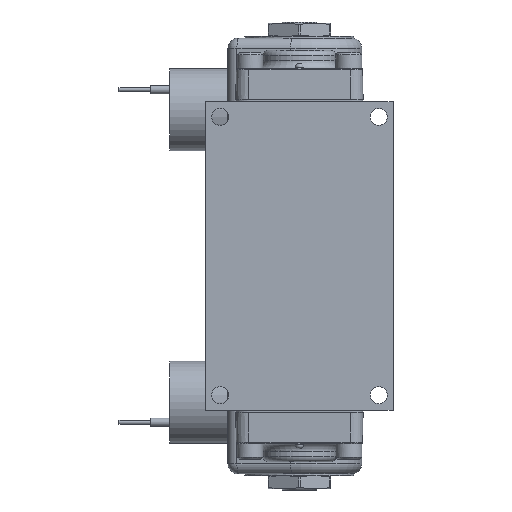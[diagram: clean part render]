
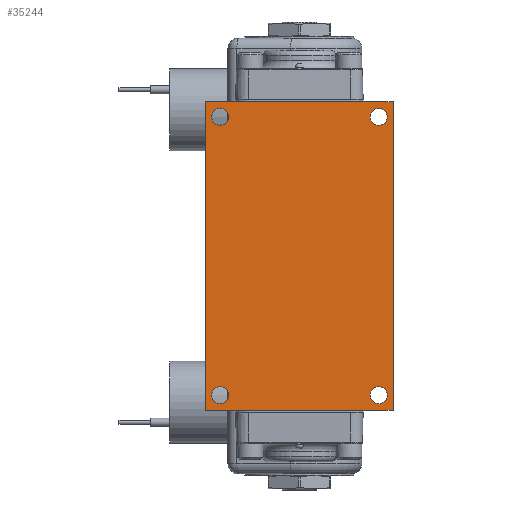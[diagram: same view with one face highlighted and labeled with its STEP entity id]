
A CAD part, front view. The second image highlights one B-rep face of the part: STEP entity #35244.
In plain terms, the highlighted planar face has unit normal (0, -1, 0).
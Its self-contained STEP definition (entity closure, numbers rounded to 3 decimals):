
#1225=FACE_BOUND('',#10348,.T.);
#1226=FACE_BOUND('',#10349,.T.);
#1227=FACE_BOUND('',#10350,.T.);
#1228=FACE_BOUND('',#10351,.T.);
#2926=LINE('',#61748,#5351);
#2927=LINE('',#61750,#5352);
#2928=LINE('',#61752,#5353);
#2929=LINE('',#61753,#5354);
#5351=VECTOR('',#45571,1.);
#5352=VECTOR('',#45572,1.);
#5353=VECTOR('',#45573,1.);
#5354=VECTOR('',#45574,1.);
#8202=FACE_OUTER_BOUND('',#10347,.T.);
#10347=EDGE_LOOP('',(#26960,#26961,#26962,#26963));
#10348=EDGE_LOOP('',(#26964));
#10349=EDGE_LOOP('',(#26965));
#10350=EDGE_LOOP('',(#26966));
#10351=EDGE_LOOP('',(#26967));
#12555=CIRCLE('',#38437,0.258);
#12556=CIRCLE('',#38438,0.258);
#12557=CIRCLE('',#38439,0.258);
#12558=CIRCLE('',#38440,0.258);
#14999=VERTEX_POINT('',#61746);
#15000=VERTEX_POINT('',#61747);
#15001=VERTEX_POINT('',#61749);
#15002=VERTEX_POINT('',#61751);
#15003=VERTEX_POINT('',#61754);
#15004=VERTEX_POINT('',#61756);
#15005=VERTEX_POINT('',#61758);
#15006=VERTEX_POINT('',#61760);
#19274=EDGE_CURVE('',#14999,#15000,#2926,.T.);
#19275=EDGE_CURVE('',#15001,#14999,#2927,.T.);
#19276=EDGE_CURVE('',#15002,#15001,#2928,.T.);
#19277=EDGE_CURVE('',#15000,#15002,#2929,.T.);
#19278=EDGE_CURVE('',#15003,#15003,#12555,.T.);
#19279=EDGE_CURVE('',#15004,#15004,#12556,.T.);
#19280=EDGE_CURVE('',#15005,#15005,#12557,.T.);
#19281=EDGE_CURVE('',#15006,#15006,#12558,.T.);
#26960=ORIENTED_EDGE('',*,*,#19274,.F.);
#26961=ORIENTED_EDGE('',*,*,#19275,.F.);
#26962=ORIENTED_EDGE('',*,*,#19276,.F.);
#26963=ORIENTED_EDGE('',*,*,#19277,.F.);
#26964=ORIENTED_EDGE('',*,*,#19278,.T.);
#26965=ORIENTED_EDGE('',*,*,#19279,.T.);
#26966=ORIENTED_EDGE('',*,*,#19280,.T.);
#26967=ORIENTED_EDGE('',*,*,#19281,.T.);
#32058=PLANE('',#38436);
#35244=ADVANCED_FACE('',(#8202,#1225,#1226,#1227,#1228),#32058,.F.);
#38436=AXIS2_PLACEMENT_3D('',#61745,#45569,#45570);
#38437=AXIS2_PLACEMENT_3D('',#61755,#45575,#45576);
#38438=AXIS2_PLACEMENT_3D('',#61757,#45577,#45578);
#38439=AXIS2_PLACEMENT_3D('',#61759,#45579,#45580);
#38440=AXIS2_PLACEMENT_3D('',#61761,#45581,#45582);
#45569=DIRECTION('center_axis',(0.,1.,0.));
#45570=DIRECTION('ref_axis',(0.,0.,1.));
#45571=DIRECTION('',(0.,0.,1.));
#45572=DIRECTION('',(-1.,0.,0.));
#45573=DIRECTION('',(0.,0.,-1.));
#45574=DIRECTION('',(1.,0.,0.));
#45575=DIRECTION('center_axis',(0.,1.,0.));
#45576=DIRECTION('ref_axis',(-1.,0.,0.));
#45577=DIRECTION('center_axis',(0.,1.,0.));
#45578=DIRECTION('ref_axis',(-1.,0.,0.));
#45579=DIRECTION('center_axis',(0.,1.,0.));
#45580=DIRECTION('ref_axis',(-1.,0.,0.));
#45581=DIRECTION('center_axis',(0.,1.,0.));
#45582=DIRECTION('ref_axis',(-1.,0.,0.));
#61745=CARTESIAN_POINT('Origin',(0.,-1.636,0.));
#61746=CARTESIAN_POINT('',(-2.858,-1.636,-4.71));
#61747=CARTESIAN_POINT('',(-2.858,-1.636,4.71));
#61748=CARTESIAN_POINT('',(-2.858,-1.636,-4.71));
#61749=CARTESIAN_POINT('',(2.858,-1.636,-4.71));
#61750=CARTESIAN_POINT('',(2.858,-1.636,-4.71));
#61751=CARTESIAN_POINT('',(2.858,-1.636,4.71));
#61752=CARTESIAN_POINT('',(2.858,-1.636,4.71));
#61753=CARTESIAN_POINT('',(-2.858,-1.636,4.71));
#61754=CARTESIAN_POINT('',(-2.163,-1.636,-4.247));
#61755=CARTESIAN_POINT('Origin',(-2.421,-1.636,-4.247));
#61756=CARTESIAN_POINT('',(-2.163,-1.636,4.247));
#61757=CARTESIAN_POINT('Origin',(-2.421,-1.636,4.247));
#61758=CARTESIAN_POINT('',(2.678,-1.636,-4.247));
#61759=CARTESIAN_POINT('Origin',(2.421,-1.636,-4.247));
#61760=CARTESIAN_POINT('',(2.678,-1.636,4.247));
#61761=CARTESIAN_POINT('Origin',(2.421,-1.636,4.247));
